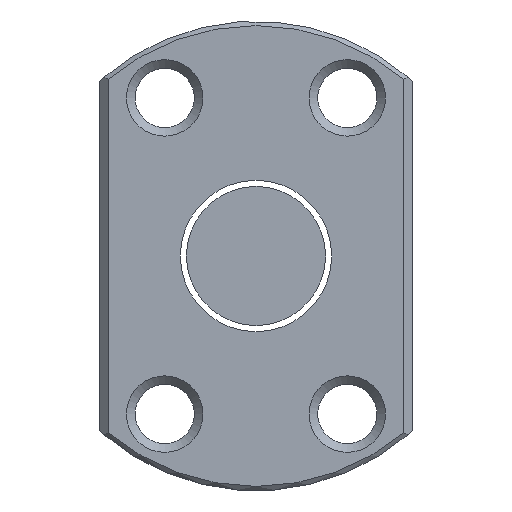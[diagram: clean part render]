
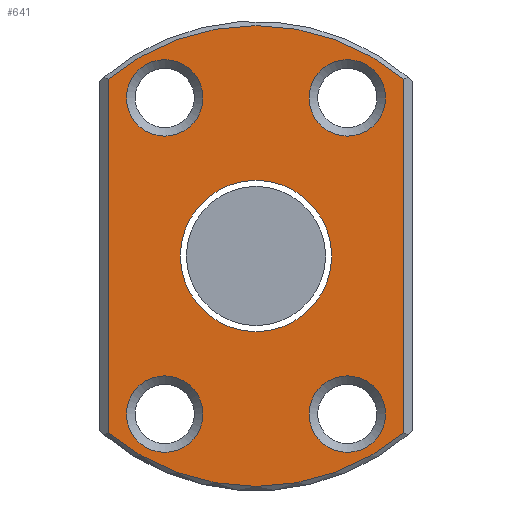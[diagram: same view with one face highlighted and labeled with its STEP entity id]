
A CAD part, left-side view. The second image highlights one B-rep face of the part: STEP entity #641.
In plain terms, the highlighted planar face has unit normal (-1, 0, 0).
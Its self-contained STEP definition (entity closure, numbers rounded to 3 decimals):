
#8 = CARTESIAN_POINT ( 'NONE',  ( -18., 8.5, -10.164 ) ) ;
#20 = AXIS2_PLACEMENT_3D ( 'NONE', #204, #497, #32 ) ;
#32 = DIRECTION ( 'NONE',  ( 0., 1., 0. ) ) ;
#56 = FACE_BOUND ( 'NONE', #951, .T. ) ;
#59 = AXIS2_PLACEMENT_3D ( 'NONE', #357, #345, #656 ) ;
#74 = PLANE ( 'NONE',  #417 ) ;
#80 = VERTEX_POINT ( 'NONE', #405 ) ;
#119 = EDGE_LOOP ( 'NONE', ( #471 ) ) ;
#125 = EDGE_CURVE ( 'NONE', #80, #299, #423, .T. ) ;
#131 = EDGE_CURVE ( 'NONE', #328, #80, #924, .T. ) ;
#135 = VERTEX_POINT ( 'NONE', #914 ) ;
#146 = ORIENTED_EDGE ( 'NONE', *, *, #534, .T. ) ;
#147 = CARTESIAN_POINT ( 'NONE',  ( -18., -7.45, 9.093 ) ) ;
#152 = ORIENTED_EDGE ( 'NONE', *, *, #587, .T. ) ;
#153 = DIRECTION ( 'NONE',  ( 0., -1., 0. ) ) ;
#166 = LINE ( 'NONE', #636, #976 ) ;
#177 = EDGE_CURVE ( 'NONE', #299, #932, #242, .T. ) ;
#204 = CARTESIAN_POINT ( 'NONE',  ( -18., 0., 0. ) ) ;
#216 = EDGE_CURVE ( 'NONE', #921, #921, #761, .T. ) ;
#228 = DIRECTION ( 'NONE',  ( -1., 0., 0. ) ) ;
#242 = CIRCLE ( 'NONE', #810, 13.25 ) ;
#270 = ORIENTED_EDGE ( 'NONE', *, *, #886, .T. ) ;
#271 = AXIS2_PLACEMENT_3D ( 'NONE', #474, #649, #554 ) ;
#299 = VERTEX_POINT ( 'NONE', #616 ) ;
#308 = VECTOR ( 'NONE', #736, 1000. ) ;
#318 = ORIENTED_EDGE ( 'NONE', *, *, #390, .T. ) ;
#324 = AXIS2_PLACEMENT_3D ( 'NONE', #984, #680, #518 ) ;
#328 = VERTEX_POINT ( 'NONE', #8 ) ;
#332 = DIRECTION ( 'NONE',  ( 0., 0., -1. ) ) ;
#339 = DIRECTION ( 'NONE',  ( 0., -1., 0. ) ) ;
#345 = DIRECTION ( 'NONE',  ( 1., 0., 0. ) ) ;
#351 = ORIENTED_EDGE ( 'NONE', *, *, #765, .T. ) ;
#357 = CARTESIAN_POINT ( 'NONE',  ( -18., 5.25, 9.093 ) ) ;
#362 = CARTESIAN_POINT ( 'NONE',  ( -18., 0., 0. ) ) ;
#379 = VERTEX_POINT ( 'NONE', #520 ) ;
#390 = EDGE_CURVE ( 'NONE', #900, #900, #558, .T. ) ;
#405 = CARTESIAN_POINT ( 'NONE',  ( -18., -8.5, -10.164 ) ) ;
#413 = CARTESIAN_POINT ( 'NONE',  ( -18., 0., 0. ) ) ;
#417 = AXIS2_PLACEMENT_3D ( 'NONE', #915, #228, #153 ) ;
#423 = LINE ( 'NONE', #663, #308 ) ;
#436 = CARTESIAN_POINT ( 'NONE',  ( -18., 3.05, 9.093 ) ) ;
#437 = FACE_BOUND ( 'NONE', #618, .T. ) ;
#446 = ORIENTED_EDGE ( 'NONE', *, *, #131, .T. ) ;
#471 = ORIENTED_EDGE ( 'NONE', *, *, #216, .T. ) ;
#474 = CARTESIAN_POINT ( 'NONE',  ( -18., -5.25, -9.093 ) ) ;
#497 = DIRECTION ( 'NONE',  ( 1., 0., 0. ) ) ;
#518 = DIRECTION ( 'NONE',  ( 0., -1., 0. ) ) ;
#520 = CARTESIAN_POINT ( 'NONE',  ( -18., 4.35, 0. ) ) ;
#525 = AXIS2_PLACEMENT_3D ( 'NONE', #697, #691, #545 ) ;
#534 = EDGE_CURVE ( 'NONE', #379, #379, #860, .T. ) ;
#545 = DIRECTION ( 'NONE',  ( 0., -1., 0. ) ) ;
#550 = FACE_BOUND ( 'NONE', #612, .T. ) ;
#554 = DIRECTION ( 'NONE',  ( 0., -1., 0. ) ) ;
#558 = CIRCLE ( 'NONE', #271, 2.2 ) ;
#579 = CARTESIAN_POINT ( 'NONE',  ( -18., 8.5, 10.164 ) ) ;
#587 = EDGE_CURVE ( 'NONE', #135, #135, #960, .T. ) ;
#590 = DIRECTION ( 'NONE',  ( -1., 0., 0. ) ) ;
#612 = EDGE_LOOP ( 'NONE', ( #318 ) ) ;
#613 = CARTESIAN_POINT ( 'NONE',  ( -18., -7.45, -9.093 ) ) ;
#616 = CARTESIAN_POINT ( 'NONE',  ( -18., -8.5, 10.164 ) ) ;
#618 = EDGE_LOOP ( 'NONE', ( #270 ) ) ;
#636 = CARTESIAN_POINT ( 'NONE',  ( -18., 8.5, 0. ) ) ;
#641 = ADVANCED_FACE ( 'NONE', ( #550, #923, #437, #760, #56, #750 ), #74, .T. ) ;
#642 = ORIENTED_EDGE ( 'NONE', *, *, #177, .T. ) ;
#649 = DIRECTION ( 'NONE',  ( 1., 0., 0. ) ) ;
#656 = DIRECTION ( 'NONE',  ( 0., -1., 0. ) ) ;
#663 = CARTESIAN_POINT ( 'NONE',  ( -18., -8.5, 0. ) ) ;
#675 = VERTEX_POINT ( 'NONE', #436 ) ;
#680 = DIRECTION ( 'NONE',  ( 1., 0., 0. ) ) ;
#691 = DIRECTION ( 'NONE',  ( 1., 0., 0. ) ) ;
#697 = CARTESIAN_POINT ( 'NONE',  ( -18., 5.25, -9.093 ) ) ;
#710 = EDGE_LOOP ( 'NONE', ( #152 ) ) ;
#728 = DIRECTION ( 'NONE',  ( -1., 0., 0. ) ) ;
#736 = DIRECTION ( 'NONE',  ( 0., 0., 1. ) ) ;
#750 = FACE_OUTER_BOUND ( 'NONE', #919, .T. ) ;
#760 = FACE_BOUND ( 'NONE', #710, .T. ) ;
#761 = CIRCLE ( 'NONE', #324, 2.2 ) ;
#765 = EDGE_CURVE ( 'NONE', #932, #328, #166, .T. ) ;
#810 = AXIS2_PLACEMENT_3D ( 'NONE', #362, #590, #894 ) ;
#860 = CIRCLE ( 'NONE', #20, 4.35 ) ;
#886 = EDGE_CURVE ( 'NONE', #675, #675, #987, .T. ) ;
#894 = DIRECTION ( 'NONE',  ( 0., -1., 0. ) ) ;
#900 = VERTEX_POINT ( 'NONE', #613 ) ;
#907 = AXIS2_PLACEMENT_3D ( 'NONE', #413, #728, #339 ) ;
#914 = CARTESIAN_POINT ( 'NONE',  ( -18., 3.05, -9.093 ) ) ;
#915 = CARTESIAN_POINT ( 'NONE',  ( -18., 13.5, 0. ) ) ;
#919 = EDGE_LOOP ( 'NONE', ( #351, #446, #992, #642 ) ) ;
#921 = VERTEX_POINT ( 'NONE', #147 ) ;
#923 = FACE_BOUND ( 'NONE', #119, .T. ) ;
#924 = CIRCLE ( 'NONE', #907, 13.25 ) ;
#932 = VERTEX_POINT ( 'NONE', #579 ) ;
#951 = EDGE_LOOP ( 'NONE', ( #146 ) ) ;
#960 = CIRCLE ( 'NONE', #525, 2.2 ) ;
#976 = VECTOR ( 'NONE', #332, 1000. ) ;
#984 = CARTESIAN_POINT ( 'NONE',  ( -18., -5.25, 9.093 ) ) ;
#987 = CIRCLE ( 'NONE', #59, 2.2 ) ;
#992 = ORIENTED_EDGE ( 'NONE', *, *, #125, .T. ) ;
